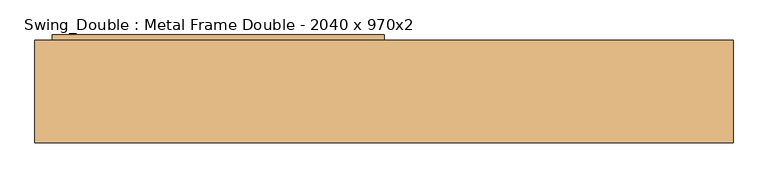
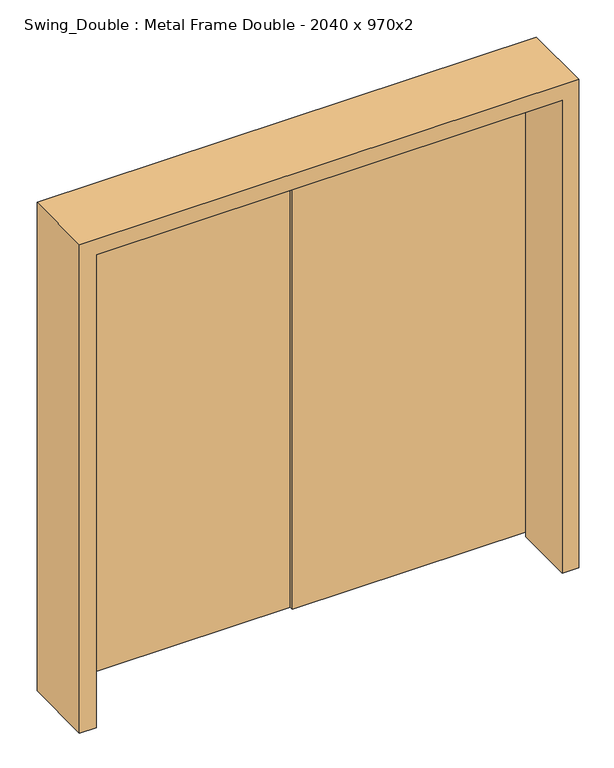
"""IFC4 building model written with IfcOpenShell, lengths in millimetres: door geometry, Swing_Double : Metal Frame Double - 2040 x 970x2."""

from ifc_helpers import new_model, si_unit, frame, origin, place, context, project, spatial, polyline, outline, extrude, faceted_brep, source, transform, mapped, element, save


def swing_double_metal_frame_double_2040_x_970x2_02f75465(model_context):
    return source(origin(), model_context, "Body", "SolidModel", [
        extrude(outline(polyline([(-211.5, 150.0), (758.5, 150.0), (758.5, 110.0), (-211.5, 110.0), (-211.5, 150.0)])), frame((0.0, 0.0, 20.0), z_axis=(0.0, 0.0, 1.0), x_axis=(1.0, 0.0, 0.0)), (0.0, 0.0, 1.0), 2040.0),
        extrude(outline(polyline([(-211.5, 165.0), (-211.5, 125.0), (-1181.5, 125.0), (-1181.5, 165.0), (-211.5, 165.0)])), frame((0.0, 0.0, 20.0), z_axis=(0.0, 0.0, 1.0), x_axis=(1.0, 0.0, 0.0)), (0.0, 0.0, 1.0), 2040.0),
        faceted_brep([(808.5, -150.0, 0.0), (740.5, -150.0, 0.0), (740.5, 108.0, 0.0), (760.5, 108.0, 0.0), (760.5, 150.0, 0.0), (808.5, 150.0, 0.0), (808.5, -150.0, 2110.0), (-1231.5, -150.0, 2110.0), (-1231.5, -150.0, 0.0), (-1163.5, -150.0, 0.0), (-1163.5, -150.0, 2042.0), (740.5, -150.0, 2042.0), (740.5, 108.0, 2042.0), (-1163.5, 108.0, 2042.0), (-1163.5, 108.0, 0.0), (-1183.5, 108.0, 0.0), (-1183.5, 108.0, 2062.0), (760.5, 108.0, 2062.0), (760.5, 150.0, 2062.0), (-1183.5, 150.0, 2062.0), (-1183.5, 150.0, 0.0), (-1231.5, 150.0, 0.0), (-1231.5, 150.0, 2110.0), (808.5, 150.0, 2110.0)], [[[0, 1, 2, 3, 4, 5]], [[1, 0, 6, 7, 8, 9, 10, 11]], [[2, 1, 11, 12]], [[3, 2, 12, 13, 14, 15, 16, 17]], [[4, 3, 17, 18]], [[5, 4, 18, 19, 20, 21, 22, 23]], [[0, 5, 23, 6]], [[19, 16, 15, 20]], [[8, 21, 20, 15, 14, 9]], [[7, 22, 21, 8]], [[13, 10, 9, 14]], [[6, 23, 22, 7]], [[18, 17, 16, 19]], [[12, 11, 10, 13]]]),
    ])


if __name__ == "__main__":
    model = new_model("IFC4")
    model_context = context("Model", 3, world=origin())
    ifc_project = project(units=[si_unit("LENGTHUNIT", "METRE", prefix="MILLI")], contexts=[model_context])
    site = spatial("IfcSite", under=ifc_project)
    building = spatial("IfcBuilding", under=site)
    placement = place(None, origin())
    swing_double_metal_frame_double_2040_x_970x2_shape = swing_double_metal_frame_double_2040_x_970x2_02f75465(model_context)
    element("IfcDoor", 1, ObjectType="Swing_Double : Metal Frame Double - 2040 x 970x2", at=placement, inside=building, context=model_context, shape_type="MappedRepresentation", body=[
        mapped(swing_double_metal_frame_double_2040_x_970x2_shape, transform((0.0, 0.0, 0.0), x_axis=(1.0, 0.0, 0.0), y_axis=(0.0, 1.0, 0.0), z_axis=(0.0, 0.0, 1.0))),
    ])
    save(model, "model.ifc")
